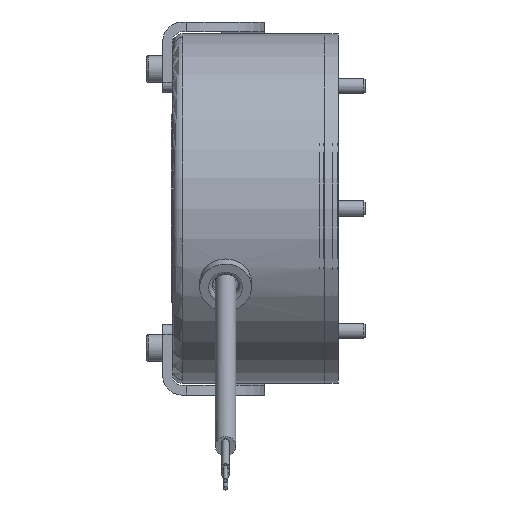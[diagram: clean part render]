
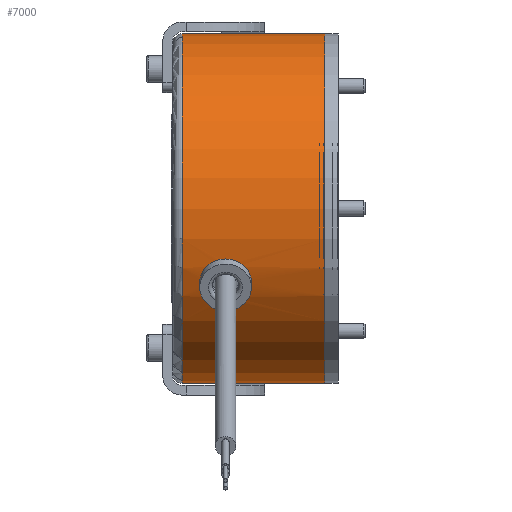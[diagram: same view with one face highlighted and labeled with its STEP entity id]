
A CAD part, front view. The second image highlights one B-rep face of the part: STEP entity #7000.
In plain terms, the highlighted cylindrical face has radius 44.5 mm (diameter 89 mm), a full revolution.
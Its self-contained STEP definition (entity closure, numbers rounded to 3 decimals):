
#59=FACE_BOUND('',#939,.T.);
#128=CYLINDRICAL_SURFACE('',#7428,44.5);
#367=B_SPLINE_CURVE_WITH_KNOTS('',3,(#10437,#10438,#10439,#10440,#10441,
#10442,#10443,#10444,#10445,#10446,#10447,#10448,#10449,#10450,#10451,#10452,
#10453,#10454),.UNSPECIFIED.,.F.,.F.,(4,2,2,2,2,2,2,2,4),(0.767,
0.959,1.15,1.342,1.533,1.725,
1.917,2.108,2.3),.UNSPECIFIED.);
#368=B_SPLINE_CURVE_WITH_KNOTS('',3,(#10457,#10458,#10459,#10460,#10461,
#10462,#10463,#10464,#10465,#10466,#10467,#10468,#10469,#10470,#10471,#10472,
#10473,#10474,#10475),.UNSPECIFIED.,.F.,.F.,(4,2,2,2,3,2,2,2,4),(2.3,
2.492,2.684,2.875,3.067,3.258,
3.449,3.642,3.834),.UNSPECIFIED.);
#549=FACE_OUTER_BOUND('',#938,.T.);
#938=EDGE_LOOP('',(#4433,#4434,#4435,#4436,#4437,#4438,#4439));
#939=EDGE_LOOP('',(#4440,#4441,#4442,#4443,#4444,#4445));
#1396=CIRCLE('',#7429,44.5);
#1397=CIRCLE('',#7430,44.5);
#1398=CIRCLE('',#7431,44.5);
#1399=CIRCLE('',#7432,44.5);
#1400=CIRCLE('',#7433,44.5);
#1840=LINE('',#10564,#2237);
#1841=LINE('',#10570,#2238);
#1842=LINE('',#10571,#2239);
#2237=VECTOR('',#8315,44.5);
#2238=VECTOR('',#8322,10.);
#2239=VECTOR('',#8323,10.);
#2628=VERTEX_POINT('',#10328);
#2629=VERTEX_POINT('',#10329);
#2630=VERTEX_POINT('',#10331);
#2631=VERTEX_POINT('',#10333);
#2650=VERTEX_POINT('',#10559);
#2651=VERTEX_POINT('',#10560);
#2652=VERTEX_POINT('',#10563);
#2653=VERTEX_POINT('',#10565);
#2654=VERTEX_POINT('',#10567);
#3351=EDGE_CURVE('',#2629,#2630,#367,.T.);
#3353=EDGE_CURVE('',#2630,#2629,#368,.T.);
#3368=EDGE_CURVE('',#2650,#2651,#1396,.T.);
#3369=EDGE_CURVE('',#2651,#2650,#1397,.T.);
#3370=EDGE_CURVE('',#2651,#2652,#1840,.T.);
#3371=EDGE_CURVE('',#2653,#2652,#1398,.T.);
#3372=EDGE_CURVE('',#2654,#2653,#1399,.T.);
#3373=EDGE_CURVE('',#2652,#2654,#1400,.T.);
#3374=EDGE_CURVE('',#2630,#2631,#1841,.T.);
#3375=EDGE_CURVE('',#2628,#2629,#1842,.T.);
#4433=ORIENTED_EDGE('',*,*,#3368,.F.);
#4434=ORIENTED_EDGE('',*,*,#3369,.F.);
#4435=ORIENTED_EDGE('',*,*,#3370,.T.);
#4436=ORIENTED_EDGE('',*,*,#3371,.F.);
#4437=ORIENTED_EDGE('',*,*,#3372,.F.);
#4438=ORIENTED_EDGE('',*,*,#3373,.F.);
#4439=ORIENTED_EDGE('',*,*,#3370,.F.);
#4440=ORIENTED_EDGE('',*,*,#3374,.T.);
#4441=ORIENTED_EDGE('',*,*,#3374,.F.);
#4442=ORIENTED_EDGE('',*,*,#3353,.T.);
#4443=ORIENTED_EDGE('',*,*,#3375,.F.);
#4444=ORIENTED_EDGE('',*,*,#3375,.T.);
#4445=ORIENTED_EDGE('',*,*,#3351,.T.);
#7000=ADVANCED_FACE('',(#549,#59),#128,.T.);
#7428=AXIS2_PLACEMENT_3D('',#10558,#8309,#8310);
#7429=AXIS2_PLACEMENT_3D('',#10561,#8311,#8312);
#7430=AXIS2_PLACEMENT_3D('',#10562,#8313,#8314);
#7431=AXIS2_PLACEMENT_3D('',#10566,#8316,#8317);
#7432=AXIS2_PLACEMENT_3D('',#10568,#8318,#8319);
#7433=AXIS2_PLACEMENT_3D('',#10569,#8320,#8321);
#8309=DIRECTION('center_axis',(1.,0.,0.));
#8310=DIRECTION('ref_axis',(0.,1.,0.));
#8311=DIRECTION('center_axis',(1.,0.,0.));
#8312=DIRECTION('ref_axis',(0.,1.,0.));
#8313=DIRECTION('center_axis',(1.,0.,0.));
#8314=DIRECTION('ref_axis',(0.,1.,0.));
#8315=DIRECTION('',(-1.,0.,0.));
#8316=DIRECTION('center_axis',(-1.,0.,0.));
#8317=DIRECTION('ref_axis',(0.,-1.,0.));
#8318=DIRECTION('center_axis',(-1.,0.,0.));
#8319=DIRECTION('ref_axis',(0.,-1.,0.));
#8320=DIRECTION('center_axis',(-1.,0.,0.));
#8321=DIRECTION('ref_axis',(0.,-1.,0.));
#8322=DIRECTION('',(1.,0.,0.));
#8323=DIRECTION('',(1.,0.,0.));
#10328=CARTESIAN_POINT('',(-31.8,-40.331,-18.807));
#10329=CARTESIAN_POINT('',(-30.3,-40.331,-18.807));
#10331=CARTESIAN_POINT('',(-20.1,-40.331,-18.807));
#10333=CARTESIAN_POINT('',(-18.6,-40.331,-18.807));
#10437=CARTESIAN_POINT('Ctrl Pts',(-30.3,-40.331,-18.807));
#10438=CARTESIAN_POINT('Ctrl Pts',(-30.3,-40.601,-18.227));
#10439=CARTESIAN_POINT('Ctrl Pts',(-30.171,-40.875,-17.603));
#10440=CARTESIAN_POINT('Ctrl Pts',(-29.647,-41.354,-16.446));
#10441=CARTESIAN_POINT('Ctrl Pts',(-29.253,-41.56,
-15.914));
#10442=CARTESIAN_POINT('Ctrl Pts',(-28.346,-41.873,
-15.069));
#10443=CARTESIAN_POINT('Ctrl Pts',(-27.773,-42.002,
-14.701));
#10444=CARTESIAN_POINT('Ctrl Pts',(-26.52,-42.17,
-14.212));
#10445=CARTESIAN_POINT('Ctrl Pts',(-25.838,-42.21,
-14.091));
#10446=CARTESIAN_POINT('Ctrl Pts',(-24.562,-42.21,
-14.091));
#10447=CARTESIAN_POINT('Ctrl Pts',(-23.88,-42.17,
-14.212));
#10448=CARTESIAN_POINT('Ctrl Pts',(-22.627,-42.002,
-14.701));
#10449=CARTESIAN_POINT('Ctrl Pts',(-22.054,-41.873,
-15.069));
#10450=CARTESIAN_POINT('Ctrl Pts',(-21.147,-41.56,
-15.914));
#10451=CARTESIAN_POINT('Ctrl Pts',(-20.753,-41.354,-16.446));
#10452=CARTESIAN_POINT('Ctrl Pts',(-20.229,-40.875,-17.603));
#10453=CARTESIAN_POINT('Ctrl Pts',(-20.1,-40.601,-18.227));
#10454=CARTESIAN_POINT('Ctrl Pts',(-20.1,-40.331,-18.807));
#10457=CARTESIAN_POINT('Ctrl Pts',(-20.1,-40.331,-18.807));
#10458=CARTESIAN_POINT('Ctrl Pts',(-20.1,-40.06,-19.386));
#10459=CARTESIAN_POINT('Ctrl Pts',(-20.229,-39.759,-19.997));
#10460=CARTESIAN_POINT('Ctrl Pts',(-20.753,-39.181,
-21.108));
#10461=CARTESIAN_POINT('Ctrl Pts',(-21.147,-38.905,
-21.608));
#10462=CARTESIAN_POINT('Ctrl Pts',(-22.054,-38.459,
-22.39));
#10463=CARTESIAN_POINT('Ctrl Pts',(-22.627,-38.26,
-22.726));
#10464=CARTESIAN_POINT('Ctrl Pts',(-23.88,-37.994,
-23.169));
#10465=CARTESIAN_POINT('Ctrl Pts',(-24.562,-37.927,
-23.277));
#10466=CARTESIAN_POINT('Ctrl Pts',(-25.2,-37.927,-23.277));
#10467=CARTESIAN_POINT('Ctrl Pts',(-25.837,-37.927,
-23.277));
#10468=CARTESIAN_POINT('Ctrl Pts',(-26.517,-37.993,
-23.169));
#10469=CARTESIAN_POINT('Ctrl Pts',(-27.77,-38.259,
-22.727));
#10470=CARTESIAN_POINT('Ctrl Pts',(-28.342,-38.458,
-22.393));
#10471=CARTESIAN_POINT('Ctrl Pts',(-29.25,-38.903,
-21.611));
#10472=CARTESIAN_POINT('Ctrl Pts',(-29.645,-39.179,
-21.111));
#10473=CARTESIAN_POINT('Ctrl Pts',(-30.17,-39.758,-19.999));
#10474=CARTESIAN_POINT('Ctrl Pts',(-30.3,-40.06,-19.387));
#10475=CARTESIAN_POINT('Ctrl Pts',(-30.3,-40.331,-18.807));
#10558=CARTESIAN_POINT('Origin',(-19.35,0.,0.));
#10559=CARTESIAN_POINT('',(0.,44.5,0.));
#10560=CARTESIAN_POINT('',(0.,-44.5,0.));
#10561=CARTESIAN_POINT('Origin',(0.,0.,0.));
#10562=CARTESIAN_POINT('Origin',(0.,0.,0.));
#10563=CARTESIAN_POINT('',(-36.2,-44.5,0.));
#10564=CARTESIAN_POINT('',(-19.35,-44.5,0.));
#10565=CARTESIAN_POINT('',(-36.2,44.5,0.));
#10566=CARTESIAN_POINT('Origin',(-36.2,0.,0.));
#10567=CARTESIAN_POINT('',(-36.2,0.,44.5));
#10568=CARTESIAN_POINT('Origin',(-36.2,0.,0.));
#10569=CARTESIAN_POINT('Origin',(-36.2,0.,0.));
#10570=CARTESIAN_POINT('',(-19.35,-40.331,-18.807));
#10571=CARTESIAN_POINT('',(-19.35,-40.331,-18.807));
